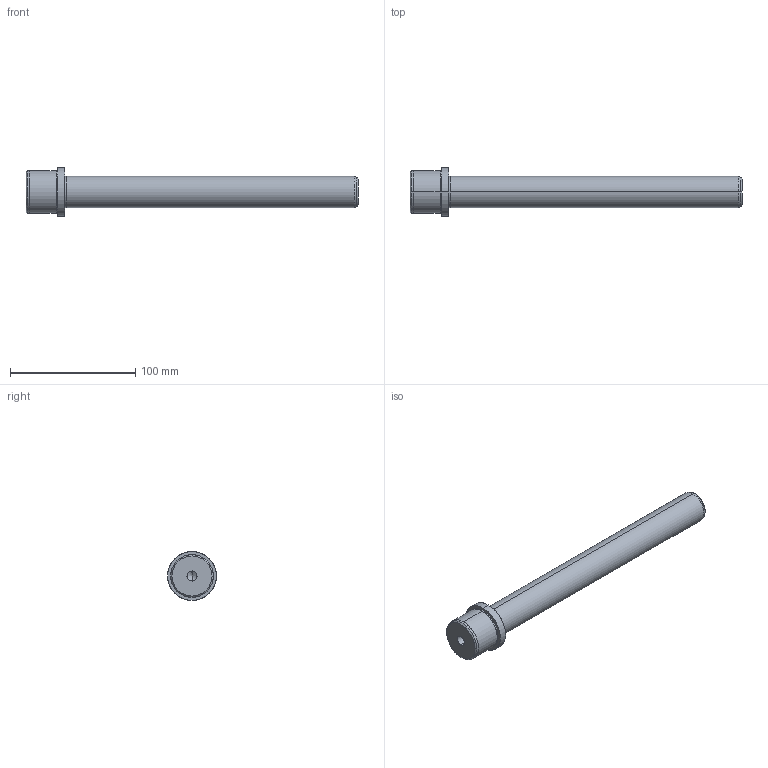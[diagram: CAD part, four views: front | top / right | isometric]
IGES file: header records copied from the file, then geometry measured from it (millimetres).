
Start section: SolidWorks IGES file using analytic representation for surfaces
Global section: file name: C:\Documents and Settings\kalite-mail\Desktop\IGS\D05\D05 - 25x240x25.IGS; native system: SolidWorks 2008; preprocessor: SolidWorks 2008; author: kalite-mail; date: 080617.104724; units: millimetre
Bounding box: 265 x 39 x 39 mm (x, y, z)
Surface area: 24389.7 mm2 (no closed solid volume)
Topology: 0 solids, 0 shells, 29 faces, 760 edges, 758 vertices
Faces by surface type: revolution 20, bspline 9
